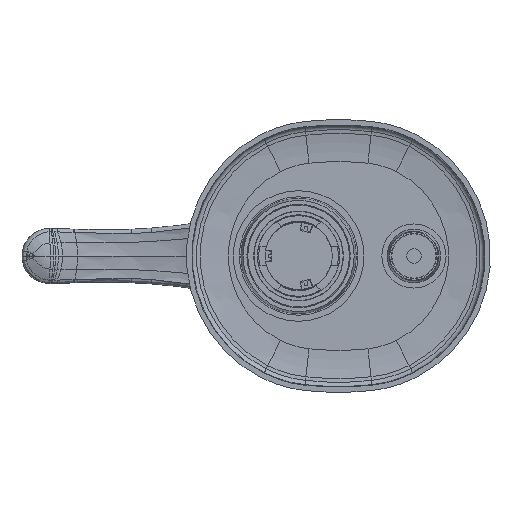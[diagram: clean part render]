
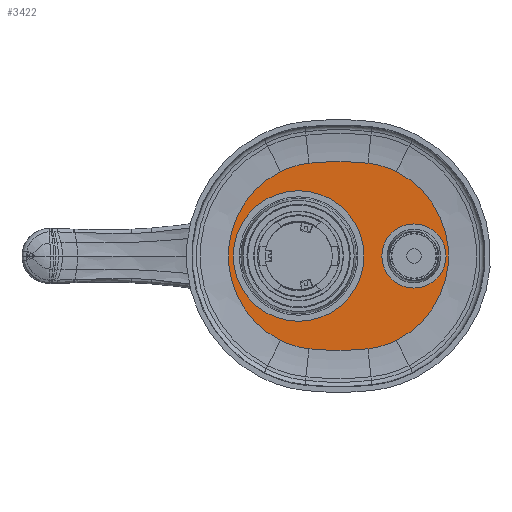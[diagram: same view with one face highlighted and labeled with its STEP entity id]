
A CAD part, front view. The second image highlights one B-rep face of the part: STEP entity #3422.
In plain terms, the highlighted planar face has unit normal (0, -1, 0).
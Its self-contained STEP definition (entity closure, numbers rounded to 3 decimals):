
#229=CARTESIAN_POINT('',(-68.5,48.5,0.));
#230=DIRECTION('',(0.,1.,0.));
#231=DIRECTION('',(0.447,0.,0.894));
#232=AXIS2_PLACEMENT_3D('',#229,#230,#231);
#234=CARTESIAN_POINT('',(-66.263,48.5,-4.472));
#235=DIRECTION('',(0.,1.,0.));
#236=DIRECTION('',(0.447,0.,-0.894));
#237=AXIS2_PLACEMENT_3D('',#234,#235,#236);
#239=CARTESIAN_POINT('',(-76.,48.5,85.));
#240=DIRECTION('',(0.,1.,0.));
#241=DIRECTION('',(0.108,0.,-0.994));
#242=AXIS2_PLACEMENT_3D('',#239,#240,#241);
#244=CARTESIAN_POINT('',(-85.737,48.5,-4.472));
#245=DIRECTION('',(0.,1.,0.));
#246=DIRECTION('',(-0.108,0.,-0.994));
#247=AXIS2_PLACEMENT_3D('',#244,#245,#246);
#249=CARTESIAN_POINT('',(-83.5,48.5,0.));
#250=DIRECTION('',(0.,1.,0.));
#251=DIRECTION('',(-0.447,0.,-0.894));
#252=AXIS2_PLACEMENT_3D('',#249,#250,#251);
#254=CARTESIAN_POINT('',(-85.737,48.5,4.472));
#255=DIRECTION('',(0.,1.,0.));
#256=DIRECTION('',(-0.447,0.,0.894));
#257=AXIS2_PLACEMENT_3D('',#254,#255,#256);
#259=CARTESIAN_POINT('',(-76.,48.5,-85.));
#260=DIRECTION('',(0.,1.,0.));
#261=DIRECTION('',(-0.108,0.,0.994));
#262=AXIS2_PLACEMENT_3D('',#259,#260,#261);
#264=CARTESIAN_POINT('',(-66.263,48.5,4.472));
#265=DIRECTION('',(0.,1.,0.));
#266=DIRECTION('',(0.108,0.,0.994));
#267=AXIS2_PLACEMENT_3D('',#264,#265,#266);
#269=CARTESIAN_POINT('',(-95.,48.5,0.));
#270=DIRECTION('',(0.,-1.,0.));
#271=DIRECTION('',(0.,0.,1.));
#272=AXIS2_PLACEMENT_3D('',#269,#270,#271);
#274=CARTESIAN_POINT('',(-95.,48.5,0.));
#275=DIRECTION('',(0.,-1.,0.));
#276=DIRECTION('',(0.,0.,-1.));
#277=AXIS2_PLACEMENT_3D('',#274,#275,#276);
#279=CARTESIAN_POINT('',(-40.,48.5,0.));
#280=DIRECTION('',(0.,-1.,0.));
#281=DIRECTION('',(0.,0.,1.));
#282=AXIS2_PLACEMENT_3D('',#279,#280,#281);
#284=CARTESIAN_POINT('',(-40.,48.5,0.));
#285=DIRECTION('',(0.,-1.,0.));
#286=DIRECTION('',(0.,0.,-1.));
#287=AXIS2_PLACEMENT_3D('',#284,#285,#286);
#2589=CARTESIAN_POINT('',(-48.368,48.5,40.246));
#2590=VERTEX_POINT('',#2589);
#2609=CARTESIAN_POINT('',(-48.368,48.5,-40.246));
#2610=VERTEX_POINT('',#2609);
#2629=CARTESIAN_POINT('',(-61.936,48.5,-44.237));
#2630=VERTEX_POINT('',#2629);
#2649=CARTESIAN_POINT('',(-90.064,48.5,-44.237));
#2650=VERTEX_POINT('',#2649);
#2669=CARTESIAN_POINT('',(-103.632,48.5,-40.246));
#2670=VERTEX_POINT('',#2669);
#2689=CARTESIAN_POINT('',(-103.632,48.5,40.246));
#2690=VERTEX_POINT('',#2689);
#2709=CARTESIAN_POINT('',(-90.064,48.5,44.237));
#2710=VERTEX_POINT('',#2709);
#2729=CARTESIAN_POINT('',(-61.936,48.5,44.237));
#2730=VERTEX_POINT('',#2729);
#2753=CARTESIAN_POINT('',(-95.,48.5,31.15));
#2754=CARTESIAN_POINT('',(-95.,48.5,-31.15));
#2755=VERTEX_POINT('',#2753);
#2756=VERTEX_POINT('',#2754);
#2761=CARTESIAN_POINT('',(-40.,48.5,15.3));
#2762=CARTESIAN_POINT('',(-40.,48.5,-15.3));
#2763=VERTEX_POINT('',#2761);
#2764=VERTEX_POINT('',#2762);
#3388=CARTESIAN_POINT('',(-68.5,48.5,0.));
#3389=DIRECTION('',(0.,1.,0.));
#3390=DIRECTION('',(-0.447,0.,-0.894));
#3391=AXIS2_PLACEMENT_3D('',#3388,#3389,#3390);
#3392=PLANE('',#3391);
#3394=ORIENTED_EDGE('',*,*,#3393,.T.);
#3396=ORIENTED_EDGE('',*,*,#3395,.T.);
#3398=ORIENTED_EDGE('',*,*,#3397,.T.);
#3400=ORIENTED_EDGE('',*,*,#3399,.T.);
#3402=ORIENTED_EDGE('',*,*,#3401,.T.);
#3404=ORIENTED_EDGE('',*,*,#3403,.T.);
#3406=ORIENTED_EDGE('',*,*,#3405,.T.);
#3408=ORIENTED_EDGE('',*,*,#3407,.T.);
#3409=EDGE_LOOP('',(#3394,#3396,#3398,#3400,#3402,#3404,#3406,#3408));
#3410=FACE_OUTER_BOUND('',#3409,.F.);
#3412=ORIENTED_EDGE('',*,*,#3411,.T.);
#3414=ORIENTED_EDGE('',*,*,#3413,.T.);
#3415=EDGE_LOOP('',(#3412,#3414));
#3416=FACE_BOUND('',#3415,.F.);
#3417=ORIENTED_EDGE('',*,*,#3378,.T.);
#3419=ORIENTED_EDGE('',*,*,#3418,.T.);
#3420=EDGE_LOOP('',(#3417,#3419));
#3421=FACE_BOUND('',#3420,.F.);
#3422=ADVANCED_FACE('',(#3410,#3416,#3421),#3392,.F.);
#233=CIRCLE('',#232,45.);
#238=CIRCLE('',#237,40.);
#243=CIRCLE('',#242,130.);
#248=CIRCLE('',#247,40.);
#253=CIRCLE('',#252,45.);
#258=CIRCLE('',#257,40.);
#263=CIRCLE('',#262,130.);
#268=CIRCLE('',#267,40.);
#273=CIRCLE('',#272,31.15);
#278=CIRCLE('',#277,31.15);
#283=CIRCLE('',#282,15.3);
#288=CIRCLE('',#287,15.3);
#3378=EDGE_CURVE('',#2763,#2764,#283,.T.);
#3393=EDGE_CURVE('',#2590,#2610,#233,.T.);
#3395=EDGE_CURVE('',#2610,#2630,#238,.T.);
#3397=EDGE_CURVE('',#2630,#2650,#243,.T.);
#3399=EDGE_CURVE('',#2650,#2670,#248,.T.);
#3401=EDGE_CURVE('',#2670,#2690,#253,.T.);
#3403=EDGE_CURVE('',#2690,#2710,#258,.T.);
#3405=EDGE_CURVE('',#2710,#2730,#263,.T.);
#3407=EDGE_CURVE('',#2730,#2590,#268,.T.);
#3411=EDGE_CURVE('',#2755,#2756,#273,.T.);
#3413=EDGE_CURVE('',#2756,#2755,#278,.T.);
#3418=EDGE_CURVE('',#2764,#2763,#288,.T.);
